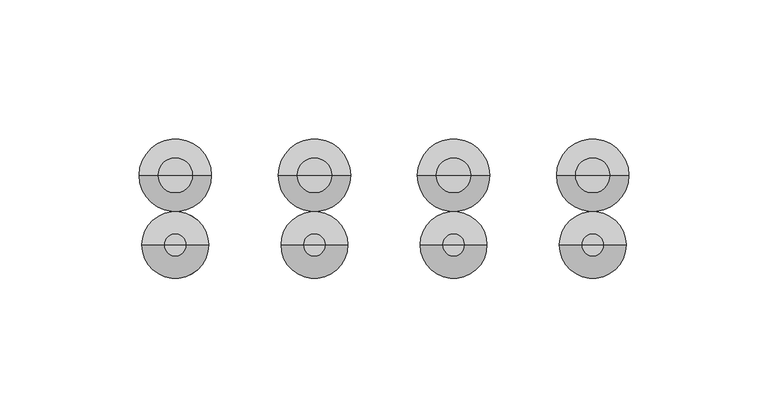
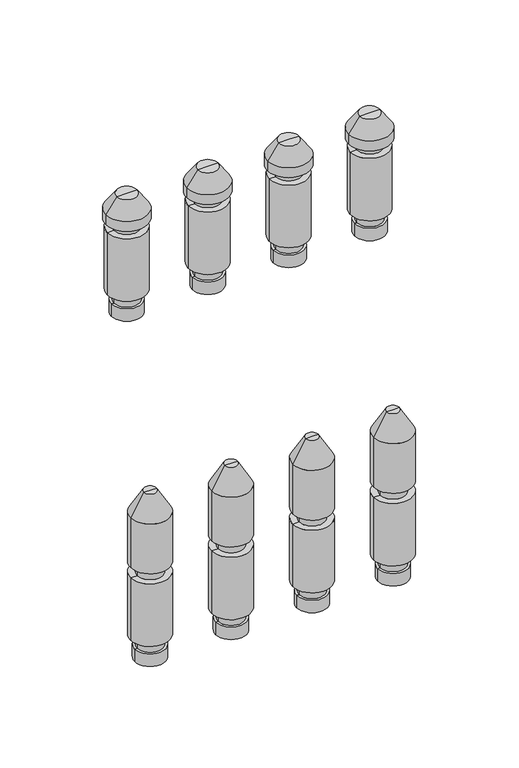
"""IFC4 building model written with IfcOpenShell, lengths in millimetres: valve geometry."""

from ifc_helpers import new_model, si_unit, frame, origin, place, context, project, spatial, polyline, circle_curve, source, transform, mapped, element, save
from ifc_brep_helpers import plane_surface, cylinder_surface, revolved_surface, advanced_brep


def valve_5755080d(model_context):
    return source(origin(), model_context, "Body", "AdvancedBrep", [
        advanced_brep(
        [(278.5, 0.0, -35.11267), (297.5, 0.0, -35.11267), (288.0, 0.0, -35.11267), (278.5, 0.0, -27.0369646), (297.5, 0.0, -27.0369646), (280.0, 0.0, -27.0369646), (296.0, 0.0, -27.0369646), (280.0, 0.0, -20.330253), (296.0, 0.0, -20.330253), (276.0, 0.0, -20.330253), (300.0, 0.0, -20.330253), (276.0, 0.0, 20.330253), (300.0, 0.0, 20.330253), (280.0, 0.0, 20.330253), (296.0, 0.0, 20.330253), (280.0, 0.0, 27.0474786), (296.0, 0.0, 27.0474786), (276.0, 0.0, 27.0474786), (300.0, 0.0, 27.0474786), (276.0, 0.0, 59.4084325), (300.0, 0.0, 59.4084325), (284.0, 0.0, 73.264839), (292.0, 0.0, 73.264839), (288.0, 0.0, 73.264839)],
        [
            (0, 1, circle_curve(frame((288.0, 0.0, -35.11267), z_axis=(0.0, 0.0, -1.0), x_axis=(1.0, 0.0, 0.0)), 9.5)),
            (1, 2),
            (2, 0),
            (1, 0, circle_curve(frame((288.0, 0.0, -35.11267), z_axis=(0.0, 0.0, -1.0), x_axis=(1.0, 0.0, 0.0)), 9.5)),
            (3, 4, circle_curve(frame((288.0, 0.0, -27.0369646), z_axis=(0.0, 0.0, -1.0), x_axis=(1.0, 0.0, 0.0)), 9.5)),
            (4, 1),
            (0, 3),
            (4, 3, circle_curve(frame((288.0, 0.0, -27.0369646), z_axis=(0.0, 0.0, -1.0), x_axis=(1.0, 0.0, 0.0)), 9.5)),
            (5, 6, circle_curve(frame((288.0, 0.0, -27.0369646), z_axis=(0.0, 0.0, -1.0), x_axis=(1.0, 0.0, 0.0)), 8.0)),
            (6, 4),
            (3, 5),
            (6, 5, circle_curve(frame((288.0, 0.0, -27.0369646), z_axis=(0.0, 0.0, -1.0), x_axis=(1.0, 0.0, 0.0)), 8.0)),
            (7, 8, circle_curve(frame((288.0, 0.0, -20.330253), z_axis=(0.0, 0.0, -1.0), x_axis=(1.0, 0.0, 0.0)), 8.0)),
            (8, 6),
            (5, 7),
            (8, 7, circle_curve(frame((288.0, 0.0, -20.330253), z_axis=(0.0, 0.0, -1.0), x_axis=(1.0, 0.0, 0.0)), 8.0)),
            (9, 10, circle_curve(frame((288.0, 0.0, -20.330253), z_axis=(0.0, 0.0, -1.0), x_axis=(1.0, 0.0, 0.0)), 12.0)),
            (10, 8),
            (7, 9),
            (10, 9, circle_curve(frame((288.0, 0.0, -20.330253), z_axis=(0.0, 0.0, -1.0), x_axis=(1.0, 0.0, 0.0)), 12.0)),
            (11, 12, circle_curve(frame((288.0, 0.0, 20.330253), z_axis=(0.0, 0.0, -1.0), x_axis=(1.0, 0.0, 0.0)), 12.0)),
            (12, 10),
            (9, 11),
            (12, 11, circle_curve(frame((288.0, 0.0, 20.330253), z_axis=(0.0, 0.0, -1.0), x_axis=(1.0, 0.0, 0.0)), 12.0)),
            (13, 14, circle_curve(frame((288.0, 0.0, 20.330253), z_axis=(0.0, 0.0, -1.0), x_axis=(1.0, 0.0, 0.0)), 8.0)),
            (14, 12),
            (11, 13),
            (14, 13, circle_curve(frame((288.0, 0.0, 20.330253), z_axis=(0.0, 0.0, -1.0), x_axis=(1.0, 0.0, 0.0)), 8.0)),
            (15, 16, circle_curve(frame((288.0, 0.0, 27.0474786), z_axis=(0.0, 0.0, -1.0), x_axis=(1.0, 0.0, 0.0)), 8.0)),
            (16, 14),
            (13, 15),
            (16, 15, circle_curve(frame((288.0, 0.0, 27.0474786), z_axis=(0.0, 0.0, -1.0), x_axis=(1.0, 0.0, 0.0)), 8.0)),
            (17, 18, circle_curve(frame((288.0, 0.0, 27.0474786), z_axis=(0.0, 0.0, -1.0), x_axis=(1.0, 0.0, 0.0)), 12.0)),
            (18, 16),
            (15, 17),
            (18, 17, circle_curve(frame((288.0, 0.0, 27.0474786), z_axis=(0.0, 0.0, -1.0), x_axis=(1.0, 0.0, 0.0)), 12.0)),
            (19, 20, circle_curve(frame((288.0, 0.0, 59.4084325), z_axis=(0.0, 0.0, -1.0), x_axis=(1.0, 0.0, 0.0)), 12.0)),
            (20, 18),
            (17, 19),
            (20, 19, circle_curve(frame((288.0, 0.0, 59.4084325), z_axis=(0.0, 0.0, -1.0), x_axis=(1.0, 0.0, 0.0)), 12.0)),
            (21, 22, circle_curve(frame((288.0, 0.0, 73.264839), z_axis=(0.0, 0.0, -1.0), x_axis=(1.0, 0.0, 0.0)), 4.0)),
            (22, 20),
            (19, 21),
            (22, 21, circle_curve(frame((288.0, 0.0, 73.264839), z_axis=(0.0, 0.0, -1.0), x_axis=(1.0, 0.0, 0.0)), 4.0)),
            (23, 22),
            (21, 23),
        ],
        [
            plane_surface(frame((288.0, 0.0, -35.11267), z_axis=(0.0, 0.0, -1.0), x_axis=(1.0, 0.0, 0.0))),
            cylinder_surface(frame((288.0, 0.0, 58.264839), z_axis=(0.0, 0.0, 1.0), x_axis=(1.0, 0.0, 0.0)), 9.5),
            plane_surface(frame((288.0, 0.0, -27.0369646), z_axis=(0.0, 0.0, 1.0), x_axis=(1.0, 0.0, 0.0))),
            cylinder_surface(frame((288.0, 0.0, 58.264839), z_axis=(0.0, 0.0, 1.0), x_axis=(1.0, 0.0, 0.0)), 8.0),
            plane_surface(frame((288.0, 0.0, -20.330253), z_axis=(0.0, 0.0, -1.0), x_axis=(1.0, 0.0, 0.0))),
            cylinder_surface(frame((288.0, 0.0, 58.264839), z_axis=(0.0, 0.0, 1.0), x_axis=(1.0, 0.0, 0.0)), 12.0),
            plane_surface(frame((288.0, 0.0, 20.330253), z_axis=(0.0, 0.0, 1.0), x_axis=(1.0, 0.0, 0.0))),
            plane_surface(frame((288.0, 0.0, 27.0474786), z_axis=(0.0, 0.0, -1.0), x_axis=(1.0, 0.0, 0.0))),
            revolved_surface(polyline([(300.0, 0.0, 59.4084325), (292.0, 0.0, 73.264839)]), (288.0, 0.0, 58.264839), (0.0, 0.0, 1.0)),
            plane_surface(frame((288.0, 0.0, 73.264839), z_axis=(0.0, 0.0, 1.0), x_axis=(1.0, 0.0, 0.0))),
        ],
        [
            (0, [[1, 2, 3]]),
            (0, [[4, -3, -2]]),
            (1, [[5, 6, -1, 7]]),
            (1, [[8, -7, -4, -6]]),
            (2, [[9, 10, -5, 11]]),
            (2, [[12, -11, -8, -10]]),
            (3, [[13, 14, -9, 15]]),
            (3, [[16, -15, -12, -14]]),
            (4, [[17, 18, -13, 19]]),
            (4, [[20, -19, -16, -18]]),
            (5, [[21, 22, -17, 23]]),
            (5, [[24, -23, -20, -22]]),
            (6, [[25, 26, -21, 27]]),
            (6, [[28, -27, -24, -26]]),
            (3, [[29, 30, -25, 31]]),
            (3, [[32, -31, -28, -30]]),
            (7, [[33, 34, -29, 35]]),
            (7, [[36, -35, -32, -34]]),
            (5, [[37, 38, -33, 39]]),
            (5, [[40, -39, -36, -38]]),
            (8, [[41, 42, -37, 43]]),
            (8, [[44, -43, -40, -42]]),
            (9, [[45, -41, 46]]),
            (9, [[-46, -44, -45]]),
        ],
    ),
        advanced_brep(
        [(228.5, 0.0, -35.11267), (247.5, 0.0, -35.11267), (238.0, 0.0, -35.11267), (228.5, 0.0, -27.0369646), (247.5, 0.0, -27.0369646), (230.0, 0.0, -27.0369646), (246.0, 0.0, -27.0369646), (230.0, 0.0, -20.330253), (246.0, 0.0, -20.330253), (226.0, 0.0, -20.330253), (250.0, 0.0, -20.330253), (226.0, 0.0, 20.330253), (250.0, 0.0, 20.330253), (230.0, 0.0, 20.330253), (246.0, 0.0, 20.330253), (230.0, 0.0, 27.0474786), (246.0, 0.0, 27.0474786), (226.0, 0.0, 27.0474786), (250.0, 0.0, 27.0474786), (226.0, 0.0, 59.4084325), (250.0, 0.0, 59.4084325), (234.0, 0.0, 73.264839), (242.0, 0.0, 73.264839), (238.0, 0.0, 73.264839)],
        [
            (0, 1, circle_curve(frame((238.0, 0.0, -35.11267), z_axis=(0.0, 0.0, -1.0), x_axis=(1.0, 0.0, 0.0)), 9.5)),
            (1, 2),
            (2, 0),
            (1, 0, circle_curve(frame((238.0, 0.0, -35.11267), z_axis=(0.0, 0.0, -1.0), x_axis=(1.0, 0.0, 0.0)), 9.5)),
            (3, 4, circle_curve(frame((238.0, 0.0, -27.0369646), z_axis=(0.0, 0.0, -1.0), x_axis=(1.0, 0.0, 0.0)), 9.5)),
            (4, 1),
            (0, 3),
            (4, 3, circle_curve(frame((238.0, 0.0, -27.0369646), z_axis=(0.0, 0.0, -1.0), x_axis=(1.0, 0.0, 0.0)), 9.5)),
            (5, 6, circle_curve(frame((238.0, 0.0, -27.0369646), z_axis=(0.0, 0.0, -1.0), x_axis=(1.0, 0.0, 0.0)), 8.0)),
            (6, 4),
            (3, 5),
            (6, 5, circle_curve(frame((238.0, 0.0, -27.0369646), z_axis=(0.0, 0.0, -1.0), x_axis=(1.0, 0.0, 0.0)), 8.0)),
            (7, 8, circle_curve(frame((238.0, 0.0, -20.330253), z_axis=(0.0, 0.0, -1.0), x_axis=(1.0, 0.0, 0.0)), 8.0)),
            (8, 6),
            (5, 7),
            (8, 7, circle_curve(frame((238.0, 0.0, -20.330253), z_axis=(0.0, 0.0, -1.0), x_axis=(1.0, 0.0, 0.0)), 8.0)),
            (9, 10, circle_curve(frame((238.0, 0.0, -20.330253), z_axis=(0.0, 0.0, -1.0), x_axis=(1.0, 0.0, 0.0)), 12.0)),
            (10, 8),
            (7, 9),
            (10, 9, circle_curve(frame((238.0, 0.0, -20.330253), z_axis=(0.0, 0.0, -1.0), x_axis=(1.0, 0.0, 0.0)), 12.0)),
            (11, 12, circle_curve(frame((238.0, 0.0, 20.330253), z_axis=(0.0, 0.0, -1.0), x_axis=(1.0, 0.0, 0.0)), 12.0)),
            (12, 10),
            (9, 11),
            (12, 11, circle_curve(frame((238.0, 0.0, 20.330253), z_axis=(0.0, 0.0, -1.0), x_axis=(1.0, 0.0, 0.0)), 12.0)),
            (13, 14, circle_curve(frame((238.0, 0.0, 20.330253), z_axis=(0.0, 0.0, -1.0), x_axis=(1.0, 0.0, 0.0)), 8.0)),
            (14, 12),
            (11, 13),
            (14, 13, circle_curve(frame((238.0, 0.0, 20.330253), z_axis=(0.0, 0.0, -1.0), x_axis=(1.0, 0.0, 0.0)), 8.0)),
            (15, 16, circle_curve(frame((238.0, 0.0, 27.0474786), z_axis=(0.0, 0.0, -1.0), x_axis=(1.0, 0.0, 0.0)), 8.0)),
            (16, 14),
            (13, 15),
            (16, 15, circle_curve(frame((238.0, 0.0, 27.0474786), z_axis=(0.0, 0.0, -1.0), x_axis=(1.0, 0.0, 0.0)), 8.0)),
            (17, 18, circle_curve(frame((238.0, 0.0, 27.0474786), z_axis=(0.0, 0.0, -1.0), x_axis=(1.0, 0.0, 0.0)), 12.0)),
            (18, 16),
            (15, 17),
            (18, 17, circle_curve(frame((238.0, 0.0, 27.0474786), z_axis=(0.0, 0.0, -1.0), x_axis=(1.0, 0.0, 0.0)), 12.0)),
            (19, 20, circle_curve(frame((238.0, 0.0, 59.4084325), z_axis=(0.0, 0.0, -1.0), x_axis=(1.0, 0.0, 0.0)), 12.0)),
            (20, 18),
            (17, 19),
            (20, 19, circle_curve(frame((238.0, 0.0, 59.4084325), z_axis=(0.0, 0.0, -1.0), x_axis=(1.0, 0.0, 0.0)), 12.0)),
            (21, 22, circle_curve(frame((238.0, 0.0, 73.264839), z_axis=(0.0, 0.0, -1.0), x_axis=(1.0, 0.0, 0.0)), 4.0)),
            (22, 20),
            (19, 21),
            (22, 21, circle_curve(frame((238.0, 0.0, 73.264839), z_axis=(0.0, 0.0, -1.0), x_axis=(1.0, 0.0, 0.0)), 4.0)),
            (23, 22),
            (21, 23),
        ],
        [
            plane_surface(frame((238.0, 0.0, -35.11267), z_axis=(0.0, 0.0, -1.0), x_axis=(1.0, 0.0, 0.0))),
            cylinder_surface(frame((238.0, 0.0, 58.264839), z_axis=(0.0, 0.0, 1.0), x_axis=(1.0, 0.0, 0.0)), 9.5),
            plane_surface(frame((238.0, 0.0, -27.0369646), z_axis=(0.0, 0.0, 1.0), x_axis=(1.0, 0.0, 0.0))),
            cylinder_surface(frame((238.0, 0.0, 58.264839), z_axis=(0.0, 0.0, 1.0), x_axis=(1.0, 0.0, 0.0)), 8.0),
            plane_surface(frame((238.0, 0.0, -20.330253), z_axis=(0.0, 0.0, -1.0), x_axis=(1.0, 0.0, 0.0))),
            cylinder_surface(frame((238.0, 0.0, 58.264839), z_axis=(0.0, 0.0, 1.0), x_axis=(1.0, 0.0, 0.0)), 12.0),
            plane_surface(frame((238.0, 0.0, 20.330253), z_axis=(0.0, 0.0, 1.0), x_axis=(1.0, 0.0, 0.0))),
            plane_surface(frame((238.0, 0.0, 27.0474786), z_axis=(0.0, 0.0, -1.0), x_axis=(1.0, 0.0, 0.0))),
            revolved_surface(polyline([(250.0, 0.0, 59.4084325), (242.0, 0.0, 73.264839)]), (238.0, 0.0, 58.264839), (0.0, 0.0, 1.0)),
            plane_surface(frame((238.0, 0.0, 73.264839), z_axis=(0.0, 0.0, 1.0), x_axis=(1.0, 0.0, 0.0))),
        ],
        [
            (0, [[1, 2, 3]]),
            (0, [[4, -3, -2]]),
            (1, [[5, 6, -1, 7]]),
            (1, [[8, -7, -4, -6]]),
            (2, [[9, 10, -5, 11]]),
            (2, [[12, -11, -8, -10]]),
            (3, [[13, 14, -9, 15]]),
            (3, [[16, -15, -12, -14]]),
            (4, [[17, 18, -13, 19]]),
            (4, [[20, -19, -16, -18]]),
            (5, [[21, 22, -17, 23]]),
            (5, [[24, -23, -20, -22]]),
            (6, [[25, 26, -21, 27]]),
            (6, [[28, -27, -24, -26]]),
            (3, [[29, 30, -25, 31]]),
            (3, [[32, -31, -28, -30]]),
            (7, [[33, 34, -29, 35]]),
            (7, [[36, -35, -32, -34]]),
            (5, [[37, 38, -33, 39]]),
            (5, [[40, -39, -36, -38]]),
            (8, [[41, 42, -37, 43]]),
            (8, [[44, -43, -40, -42]]),
            (9, [[45, -41, 46]]),
            (9, [[-46, -44, -45]]),
        ],
    ),
        advanced_brep(
        [(178.5, 0.0, -35.11267), (197.5, 0.0, -35.11267), (188.0, 0.0, -35.11267), (178.5, 0.0, -27.0369646), (197.5, 0.0, -27.0369646), (180.0, 0.0, -27.0369646), (196.0, 0.0, -27.0369646), (180.0, 0.0, -20.330253), (196.0, 0.0, -20.330253), (176.0, 0.0, -20.330253), (200.0, 0.0, -20.330253), (176.0, 0.0, 20.330253), (200.0, 0.0, 20.330253), (180.0, 0.0, 20.330253), (196.0, 0.0, 20.330253), (180.0, 0.0, 27.0474786), (196.0, 0.0, 27.0474786), (176.0, 0.0, 27.0474786), (200.0, 0.0, 27.0474786), (176.0, 0.0, 59.4084325), (200.0, 0.0, 59.4084325), (184.0, 0.0, 73.264839), (192.0, 0.0, 73.264839), (188.0, 0.0, 73.264839)],
        [
            (0, 1, circle_curve(frame((188.0, 0.0, -35.11267), z_axis=(0.0, 0.0, -1.0), x_axis=(1.0, 0.0, 0.0)), 9.5)),
            (1, 2),
            (2, 0),
            (1, 0, circle_curve(frame((188.0, 0.0, -35.11267), z_axis=(0.0, 0.0, -1.0), x_axis=(1.0, 0.0, 0.0)), 9.5)),
            (3, 4, circle_curve(frame((188.0, 0.0, -27.0369646), z_axis=(0.0, 0.0, -1.0), x_axis=(1.0, 0.0, 0.0)), 9.5)),
            (4, 1),
            (0, 3),
            (4, 3, circle_curve(frame((188.0, 0.0, -27.0369646), z_axis=(0.0, 0.0, -1.0), x_axis=(1.0, 0.0, 0.0)), 9.5)),
            (5, 6, circle_curve(frame((188.0, 0.0, -27.0369646), z_axis=(0.0, 0.0, -1.0), x_axis=(1.0, 0.0, 0.0)), 8.0)),
            (6, 4),
            (3, 5),
            (6, 5, circle_curve(frame((188.0, 0.0, -27.0369646), z_axis=(0.0, 0.0, -1.0), x_axis=(1.0, 0.0, 0.0)), 8.0)),
            (7, 8, circle_curve(frame((188.0, 0.0, -20.330253), z_axis=(0.0, 0.0, -1.0), x_axis=(1.0, 0.0, 0.0)), 8.0)),
            (8, 6),
            (5, 7),
            (8, 7, circle_curve(frame((188.0, 0.0, -20.330253), z_axis=(0.0, 0.0, -1.0), x_axis=(1.0, 0.0, 0.0)), 8.0)),
            (9, 10, circle_curve(frame((188.0, 0.0, -20.330253), z_axis=(0.0, 0.0, -1.0), x_axis=(1.0, 0.0, 0.0)), 12.0)),
            (10, 8),
            (7, 9),
            (10, 9, circle_curve(frame((188.0, 0.0, -20.330253), z_axis=(0.0, 0.0, -1.0), x_axis=(1.0, 0.0, 0.0)), 12.0)),
            (11, 12, circle_curve(frame((188.0, 0.0, 20.330253), z_axis=(0.0, 0.0, -1.0), x_axis=(1.0, 0.0, 0.0)), 12.0)),
            (12, 10),
            (9, 11),
            (12, 11, circle_curve(frame((188.0, 0.0, 20.330253), z_axis=(0.0, 0.0, -1.0), x_axis=(1.0, 0.0, 0.0)), 12.0)),
            (13, 14, circle_curve(frame((188.0, 0.0, 20.330253), z_axis=(0.0, 0.0, -1.0), x_axis=(1.0, 0.0, 0.0)), 8.0)),
            (14, 12),
            (11, 13),
            (14, 13, circle_curve(frame((188.0, 0.0, 20.330253), z_axis=(0.0, 0.0, -1.0), x_axis=(1.0, 0.0, 0.0)), 8.0)),
            (15, 16, circle_curve(frame((188.0, 0.0, 27.0474786), z_axis=(0.0, 0.0, -1.0), x_axis=(1.0, 0.0, 0.0)), 8.0)),
            (16, 14),
            (13, 15),
            (16, 15, circle_curve(frame((188.0, 0.0, 27.0474786), z_axis=(0.0, 0.0, -1.0), x_axis=(1.0, 0.0, 0.0)), 8.0)),
            (17, 18, circle_curve(frame((188.0, 0.0, 27.0474786), z_axis=(0.0, 0.0, -1.0), x_axis=(1.0, 0.0, 0.0)), 12.0)),
            (18, 16),
            (15, 17),
            (18, 17, circle_curve(frame((188.0, 0.0, 27.0474786), z_axis=(0.0, 0.0, -1.0), x_axis=(1.0, 0.0, 0.0)), 12.0)),
            (19, 20, circle_curve(frame((188.0, 0.0, 59.4084325), z_axis=(0.0, 0.0, -1.0), x_axis=(1.0, 0.0, 0.0)), 12.0)),
            (20, 18),
            (17, 19),
            (20, 19, circle_curve(frame((188.0, 0.0, 59.4084325), z_axis=(0.0, 0.0, -1.0), x_axis=(1.0, 0.0, 0.0)), 12.0)),
            (21, 22, circle_curve(frame((188.0, 0.0, 73.264839), z_axis=(0.0, 0.0, -1.0), x_axis=(1.0, 0.0, 0.0)), 4.0)),
            (22, 20),
            (19, 21),
            (22, 21, circle_curve(frame((188.0, 0.0, 73.264839), z_axis=(0.0, 0.0, -1.0), x_axis=(1.0, 0.0, 0.0)), 4.0)),
            (23, 22),
            (21, 23),
        ],
        [
            plane_surface(frame((188.0, 0.0, -35.11267), z_axis=(0.0, 0.0, -1.0), x_axis=(1.0, 0.0, 0.0))),
            cylinder_surface(frame((188.0, 0.0, 58.264839), z_axis=(0.0, 0.0, 1.0), x_axis=(1.0, 0.0, 0.0)), 9.5),
            plane_surface(frame((188.0, 0.0, -27.0369646), z_axis=(0.0, 0.0, 1.0), x_axis=(1.0, 0.0, 0.0))),
            cylinder_surface(frame((188.0, 0.0, 58.264839), z_axis=(0.0, 0.0, 1.0), x_axis=(1.0, 0.0, 0.0)), 8.0),
            plane_surface(frame((188.0, 0.0, -20.330253), z_axis=(0.0, 0.0, -1.0), x_axis=(1.0, 0.0, 0.0))),
            cylinder_surface(frame((188.0, 0.0, 58.264839), z_axis=(0.0, 0.0, 1.0), x_axis=(1.0, 0.0, 0.0)), 12.0),
            plane_surface(frame((188.0, 0.0, 20.330253), z_axis=(0.0, 0.0, 1.0), x_axis=(1.0, 0.0, 0.0))),
            plane_surface(frame((188.0, 0.0, 27.0474786), z_axis=(0.0, 0.0, -1.0), x_axis=(1.0, 0.0, 0.0))),
            revolved_surface(polyline([(200.0, 0.0, 59.4084325), (192.0, 0.0, 73.264839)]), (188.0, 0.0, 58.264839), (0.0, 0.0, 1.0)),
            plane_surface(frame((188.0, 0.0, 73.264839), z_axis=(0.0, 0.0, 1.0), x_axis=(1.0, 0.0, 0.0))),
        ],
        [
            (0, [[1, 2, 3]]),
            (0, [[4, -3, -2]]),
            (1, [[5, 6, -1, 7]]),
            (1, [[8, -7, -4, -6]]),
            (2, [[9, 10, -5, 11]]),
            (2, [[12, -11, -8, -10]]),
            (3, [[13, 14, -9, 15]]),
            (3, [[16, -15, -12, -14]]),
            (4, [[17, 18, -13, 19]]),
            (4, [[20, -19, -16, -18]]),
            (5, [[21, 22, -17, 23]]),
            (5, [[24, -23, -20, -22]]),
            (6, [[25, 26, -21, 27]]),
            (6, [[28, -27, -24, -26]]),
            (3, [[29, 30, -25, 31]]),
            (3, [[32, -31, -28, -30]]),
            (7, [[33, 34, -29, 35]]),
            (7, [[36, -35, -32, -34]]),
            (5, [[37, 38, -33, 39]]),
            (5, [[40, -39, -36, -38]]),
            (8, [[41, 42, -37, 43]]),
            (8, [[44, -43, -40, -42]]),
            (9, [[45, -41, 46]]),
            (9, [[-46, -44, -45]]),
        ],
    ),
        advanced_brep(
        [(128.5, 0.0, -35.11267), (147.5, 0.0, -35.11267), (138.0, 0.0, -35.11267), (128.5, 0.0, -27.0369646), (147.5, 0.0, -27.0369646), (130.0, 0.0, -27.0369646), (146.0, 0.0, -27.0369646), (130.0, 0.0, -20.330253), (146.0, 0.0, -20.330253), (126.0, 0.0, -20.330253), (150.0, 0.0, -20.330253), (126.0, 0.0, 20.330253), (150.0, 0.0, 20.330253), (130.0, 0.0, 20.330253), (146.0, 0.0, 20.330253), (130.0, 0.0, 27.0474786), (146.0, 0.0, 27.0474786), (126.0, 0.0, 27.0474786), (150.0, 0.0, 27.0474786), (126.0, 0.0, 59.4084325), (150.0, 0.0, 59.4084325), (134.0, 0.0, 73.264839), (142.0, 0.0, 73.264839), (138.0, 0.0, 73.264839)],
        [
            (0, 1, circle_curve(frame((138.0, 0.0, -35.11267), z_axis=(0.0, 0.0, -1.0), x_axis=(1.0, 0.0, 0.0)), 9.5)),
            (1, 2),
            (2, 0),
            (1, 0, circle_curve(frame((138.0, 0.0, -35.11267), z_axis=(0.0, 0.0, -1.0), x_axis=(1.0, 0.0, 0.0)), 9.5)),
            (3, 4, circle_curve(frame((138.0, 0.0, -27.0369646), z_axis=(0.0, 0.0, -1.0), x_axis=(1.0, 0.0, 0.0)), 9.5)),
            (4, 1),
            (0, 3),
            (4, 3, circle_curve(frame((138.0, 0.0, -27.0369646), z_axis=(0.0, 0.0, -1.0), x_axis=(1.0, 0.0, 0.0)), 9.5)),
            (5, 6, circle_curve(frame((138.0, 0.0, -27.0369646), z_axis=(0.0, 0.0, -1.0), x_axis=(1.0, 0.0, 0.0)), 8.0)),
            (6, 4),
            (3, 5),
            (6, 5, circle_curve(frame((138.0, 0.0, -27.0369646), z_axis=(0.0, 0.0, -1.0), x_axis=(1.0, 0.0, 0.0)), 8.0)),
            (7, 8, circle_curve(frame((138.0, 0.0, -20.330253), z_axis=(0.0, 0.0, -1.0), x_axis=(1.0, 0.0, 0.0)), 8.0)),
            (8, 6),
            (5, 7),
            (8, 7, circle_curve(frame((138.0, 0.0, -20.330253), z_axis=(0.0, 0.0, -1.0), x_axis=(1.0, 0.0, 0.0)), 8.0)),
            (9, 10, circle_curve(frame((138.0, 0.0, -20.330253), z_axis=(0.0, 0.0, -1.0), x_axis=(1.0, 0.0, 0.0)), 12.0)),
            (10, 8),
            (7, 9),
            (10, 9, circle_curve(frame((138.0, 0.0, -20.330253), z_axis=(0.0, 0.0, -1.0), x_axis=(1.0, 0.0, 0.0)), 12.0)),
            (11, 12, circle_curve(frame((138.0, 0.0, 20.330253), z_axis=(0.0, 0.0, -1.0), x_axis=(1.0, 0.0, 0.0)), 12.0)),
            (12, 10),
            (9, 11),
            (12, 11, circle_curve(frame((138.0, 0.0, 20.330253), z_axis=(0.0, 0.0, -1.0), x_axis=(1.0, 0.0, 0.0)), 12.0)),
            (13, 14, circle_curve(frame((138.0, 0.0, 20.330253), z_axis=(0.0, 0.0, -1.0), x_axis=(1.0, 0.0, 0.0)), 8.0)),
            (14, 12),
            (11, 13),
            (14, 13, circle_curve(frame((138.0, 0.0, 20.330253), z_axis=(0.0, 0.0, -1.0), x_axis=(1.0, 0.0, 0.0)), 8.0)),
            (15, 16, circle_curve(frame((138.0, 0.0, 27.0474786), z_axis=(0.0, 0.0, -1.0), x_axis=(1.0, 0.0, 0.0)), 8.0)),
            (16, 14),
            (13, 15),
            (16, 15, circle_curve(frame((138.0, 0.0, 27.0474786), z_axis=(0.0, 0.0, -1.0), x_axis=(1.0, 0.0, 0.0)), 8.0)),
            (17, 18, circle_curve(frame((138.0, 0.0, 27.0474786), z_axis=(0.0, 0.0, -1.0), x_axis=(1.0, 0.0, 0.0)), 12.0)),
            (18, 16),
            (15, 17),
            (18, 17, circle_curve(frame((138.0, 0.0, 27.0474786), z_axis=(0.0, 0.0, -1.0), x_axis=(1.0, 0.0, 0.0)), 12.0)),
            (19, 20, circle_curve(frame((138.0, 0.0, 59.4084325), z_axis=(0.0, 0.0, -1.0), x_axis=(1.0, 0.0, 0.0)), 12.0)),
            (20, 18),
            (17, 19),
            (20, 19, circle_curve(frame((138.0, 0.0, 59.4084325), z_axis=(0.0, 0.0, -1.0), x_axis=(1.0, 0.0, 0.0)), 12.0)),
            (21, 22, circle_curve(frame((138.0, 0.0, 73.264839), z_axis=(0.0, 0.0, -1.0), x_axis=(1.0, 0.0, 0.0)), 4.0)),
            (22, 20),
            (19, 21),
            (22, 21, circle_curve(frame((138.0, 0.0, 73.264839), z_axis=(0.0, 0.0, -1.0), x_axis=(1.0, 0.0, 0.0)), 4.0)),
            (23, 22),
            (21, 23),
        ],
        [
            plane_surface(frame((138.0, 0.0, -35.11267), z_axis=(0.0, 0.0, -1.0), x_axis=(1.0, 0.0, 0.0))),
            cylinder_surface(frame((138.0, 0.0, 58.264839), z_axis=(0.0, 0.0, 1.0), x_axis=(1.0, 0.0, 0.0)), 9.5),
            plane_surface(frame((138.0, 0.0, -27.0369646), z_axis=(0.0, 0.0, 1.0), x_axis=(1.0, 0.0, 0.0))),
            cylinder_surface(frame((138.0, 0.0, 58.264839), z_axis=(0.0, 0.0, 1.0), x_axis=(1.0, 0.0, 0.0)), 8.0),
            plane_surface(frame((138.0, 0.0, -20.330253), z_axis=(0.0, 0.0, -1.0), x_axis=(1.0, 0.0, 0.0))),
            cylinder_surface(frame((138.0, 0.0, 58.264839), z_axis=(0.0, 0.0, 1.0), x_axis=(1.0, 0.0, 0.0)), 12.0),
            plane_surface(frame((138.0, 0.0, 20.330253), z_axis=(0.0, 0.0, 1.0), x_axis=(1.0, 0.0, 0.0))),
            plane_surface(frame((138.0, 0.0, 27.0474786), z_axis=(0.0, 0.0, -1.0), x_axis=(1.0, 0.0, 0.0))),
            revolved_surface(polyline([(150.0, 0.0, 59.4084325), (142.0, 0.0, 73.264839)]), (138.0, 0.0, 58.264839), (0.0, 0.0, 1.0)),
            plane_surface(frame((138.0, 0.0, 73.264839), z_axis=(0.0, 0.0, 1.0), x_axis=(1.0, 0.0, 0.0))),
        ],
        [
            (0, [[1, 2, 3]]),
            (0, [[4, -3, -2]]),
            (1, [[5, 6, -1, 7]]),
            (1, [[8, -7, -4, -6]]),
            (2, [[9, 10, -5, 11]]),
            (2, [[12, -11, -8, -10]]),
            (3, [[13, 14, -9, 15]]),
            (3, [[16, -15, -12, -14]]),
            (4, [[17, 18, -13, 19]]),
            (4, [[20, -19, -16, -18]]),
            (5, [[21, 22, -17, 23]]),
            (5, [[24, -23, -20, -22]]),
            (6, [[25, 26, -21, 27]]),
            (6, [[28, -27, -24, -26]]),
            (3, [[29, 30, -25, 31]]),
            (3, [[32, -31, -28, -30]]),
            (7, [[33, 34, -29, 35]]),
            (7, [[36, -35, -32, -34]]),
            (5, [[37, 38, -33, 39]]),
            (5, [[40, -39, -36, -38]]),
            (8, [[41, 42, -37, 43]]),
            (8, [[44, -43, -40, -42]]),
            (9, [[45, -41, 46]]),
            (9, [[-46, -44, -45]]),
        ],
    ),
        advanced_brep(
        [(278.5, 25.0, 174.88733), (297.5, 25.0, 174.88733), (288.0, 25.0, 174.88733), (278.5, 25.0, 182.9630354), (297.5, 25.0, 182.9630354), (280.0, 25.0, 182.9630354), (296.0, 25.0, 182.9630354), (280.0, 25.0, 189.669747), (296.0, 25.0, 189.669747), (276.0, 25.0, 189.669747), (300.0, 25.0, 189.669747), (276.0, 25.0, 230.330253), (300.0, 25.0, 230.330253), (280.0, 25.0, 230.330253), (296.0, 25.0, 230.330253), (280.0, 25.0, 236.0474786), (296.0, 25.0, 236.0474786), (275.0, 25.0, 236.0474786), (301.0, 25.0, 236.0474786), (275.0, 25.0, 242.337955), (301.0, 25.0, 242.337955), (281.6551779, 25.0, 251.842534), (294.3448221, 25.0, 251.842534), (288.0, 25.0, 251.842534)],
        [
            (0, 1, circle_curve(frame((288.0, 25.0, 174.88733), z_axis=(0.0, 0.0, -1.0), x_axis=(1.0, 0.0, 0.0)), 9.5)),
            (1, 2),
            (2, 0),
            (1, 0, circle_curve(frame((288.0, 25.0, 174.88733), z_axis=(0.0, 0.0, -1.0), x_axis=(1.0, 0.0, 0.0)), 9.5)),
            (3, 4, circle_curve(frame((288.0, 25.0, 182.9630354), z_axis=(0.0, 0.0, -1.0), x_axis=(1.0, 0.0, 0.0)), 9.5)),
            (4, 1),
            (0, 3),
            (4, 3, circle_curve(frame((288.0, 25.0, 182.9630354), z_axis=(0.0, 0.0, -1.0), x_axis=(1.0, 0.0, 0.0)), 9.5)),
            (5, 6, circle_curve(frame((288.0, 25.0, 182.9630354), z_axis=(0.0, 0.0, -1.0), x_axis=(1.0, 0.0, 0.0)), 8.0)),
            (6, 4),
            (3, 5),
            (6, 5, circle_curve(frame((288.0, 25.0, 182.9630354), z_axis=(0.0, 0.0, -1.0), x_axis=(1.0, 0.0, 0.0)), 8.0)),
            (7, 8, circle_curve(frame((288.0, 25.0, 189.669747), z_axis=(0.0, 0.0, -1.0), x_axis=(1.0, 0.0, 0.0)), 8.0)),
            (8, 6),
            (5, 7),
            (8, 7, circle_curve(frame((288.0, 25.0, 189.669747), z_axis=(0.0, 0.0, -1.0), x_axis=(1.0, 0.0, 0.0)), 8.0)),
            (9, 10, circle_curve(frame((288.0, 25.0, 189.669747), z_axis=(0.0, 0.0, -1.0), x_axis=(1.0, 0.0, 0.0)), 12.0)),
            (10, 8),
            (7, 9),
            (10, 9, circle_curve(frame((288.0, 25.0, 189.669747), z_axis=(0.0, 0.0, -1.0), x_axis=(1.0, 0.0, 0.0)), 12.0)),
            (11, 12, circle_curve(frame((288.0, 25.0, 230.330253), z_axis=(0.0, 0.0, -1.0), x_axis=(1.0, 0.0, 0.0)), 12.0)),
            (12, 10),
            (9, 11),
            (12, 11, circle_curve(frame((288.0, 25.0, 230.330253), z_axis=(0.0, 0.0, -1.0), x_axis=(1.0, 0.0, 0.0)), 12.0)),
            (13, 14, circle_curve(frame((288.0, 25.0, 230.330253), z_axis=(0.0, 0.0, -1.0), x_axis=(1.0, 0.0, 0.0)), 8.0)),
            (14, 12),
            (11, 13),
            (14, 13, circle_curve(frame((288.0, 25.0, 230.330253), z_axis=(0.0, 0.0, -1.0), x_axis=(1.0, 0.0, 0.0)), 8.0)),
            (15, 16, circle_curve(frame((288.0, 25.0, 236.0474786), z_axis=(0.0, 0.0, -1.0), x_axis=(1.0, 0.0, 0.0)), 8.0)),
            (16, 14),
            (13, 15),
            (16, 15, circle_curve(frame((288.0, 25.0, 236.0474786), z_axis=(0.0, 0.0, -1.0), x_axis=(1.0, 0.0, 0.0)), 8.0)),
            (17, 18, circle_curve(frame((288.0, 25.0, 236.0474786), z_axis=(0.0, 0.0, -1.0), x_axis=(1.0, 0.0, 0.0)), 13.0)),
            (18, 16),
            (15, 17),
            (18, 17, circle_curve(frame((288.0, 25.0, 236.0474786), z_axis=(0.0, 0.0, -1.0), x_axis=(1.0, 0.0, 0.0)), 13.0)),
            (19, 20, circle_curve(frame((288.0, 25.0, 242.337955), z_axis=(0.0, 0.0, -1.0), x_axis=(1.0, 0.0, 0.0)), 13.0)),
            (20, 18),
            (17, 19),
            (20, 19, circle_curve(frame((288.0, 25.0, 242.337955), z_axis=(0.0, 0.0, -1.0), x_axis=(1.0, 0.0, 0.0)), 13.0)),
            (21, 22, circle_curve(frame((288.0, 25.0, 251.842534), z_axis=(0.0, 0.0, -1.0), x_axis=(1.0, 0.0, 0.0)), 6.3448221)),
            (22, 20),
            (19, 21),
            (22, 21, circle_curve(frame((288.0, 25.0, 251.842534), z_axis=(0.0, 0.0, -1.0), x_axis=(1.0, 0.0, 0.0)), 6.3448221)),
            (23, 22),
            (21, 23),
        ],
        [
            plane_surface(frame((288.0, 25.0, 174.88733), z_axis=(0.0, 0.0, -1.0), x_axis=(1.0, 0.0, 0.0))),
            cylinder_surface(frame((288.0, 25.0, 247.7026565), z_axis=(0.0, 0.0, 1.0), x_axis=(1.0, 0.0, 0.0)), 9.5),
            plane_surface(frame((288.0, 25.0, 182.9630354), z_axis=(0.0, 0.0, 1.0), x_axis=(1.0, 0.0, 0.0))),
            cylinder_surface(frame((288.0, 25.0, 247.7026565), z_axis=(0.0, 0.0, 1.0), x_axis=(1.0, 0.0, 0.0)), 8.0),
            plane_surface(frame((288.0, 25.0, 189.669747), z_axis=(0.0, 0.0, -1.0), x_axis=(1.0, 0.0, 0.0))),
            cylinder_surface(frame((288.0, 25.0, 247.7026565), z_axis=(0.0, 0.0, 1.0), x_axis=(1.0, 0.0, 0.0)), 12.0),
            plane_surface(frame((288.0, 25.0, 230.330253), z_axis=(0.0, 0.0, 1.0), x_axis=(1.0, 0.0, 0.0))),
            plane_surface(frame((288.0, 25.0, 236.0474786), z_axis=(0.0, 0.0, -1.0), x_axis=(1.0, 0.0, 0.0))),
            cylinder_surface(frame((288.0, 25.0, 247.7026565), z_axis=(0.0, 0.0, 1.0), x_axis=(1.0, 0.0, 0.0)), 13.0),
            revolved_surface(polyline([(301.0, 25.0, 242.337955), (294.3448221, 25.0, 251.842534)]), (288.0, 25.0, 247.7026565), (0.0, 0.0, 1.0)),
            plane_surface(frame((288.0, 25.0, 251.842534), z_axis=(0.0, 0.0, 1.0), x_axis=(1.0, 0.0, 0.0))),
        ],
        [
            (0, [[1, 2, 3]]),
            (0, [[4, -3, -2]]),
            (1, [[5, 6, -1, 7]]),
            (1, [[8, -7, -4, -6]]),
            (2, [[9, 10, -5, 11]]),
            (2, [[12, -11, -8, -10]]),
            (3, [[13, 14, -9, 15]]),
            (3, [[16, -15, -12, -14]]),
            (4, [[17, 18, -13, 19]]),
            (4, [[20, -19, -16, -18]]),
            (5, [[21, 22, -17, 23]]),
            (5, [[24, -23, -20, -22]]),
            (6, [[25, 26, -21, 27]]),
            (6, [[28, -27, -24, -26]]),
            (3, [[29, 30, -25, 31]]),
            (3, [[32, -31, -28, -30]]),
            (7, [[33, 34, -29, 35]]),
            (7, [[36, -35, -32, -34]]),
            (8, [[37, 38, -33, 39]]),
            (8, [[40, -39, -36, -38]]),
            (9, [[41, 42, -37, 43]]),
            (9, [[44, -43, -40, -42]]),
            (10, [[45, -41, 46]]),
            (10, [[-46, -44, -45]]),
        ],
    ),
        advanced_brep(
        [(228.5, 25.0, 174.88733), (247.5, 25.0, 174.88733), (238.0, 25.0, 174.88733), (228.5, 25.0, 182.9630354), (247.5, 25.0, 182.9630354), (230.0, 25.0, 182.9630354), (246.0, 25.0, 182.9630354), (230.0, 25.0, 189.669747), (246.0, 25.0, 189.669747), (226.0, 25.0, 189.669747), (250.0, 25.0, 189.669747), (226.0, 25.0, 230.330253), (250.0, 25.0, 230.330253), (230.0, 25.0, 230.330253), (246.0, 25.0, 230.330253), (230.0, 25.0, 236.0474786), (246.0, 25.0, 236.0474786), (225.0, 25.0, 236.0474786), (251.0, 25.0, 236.0474786), (225.0, 25.0, 242.337955), (251.0, 25.0, 242.337955), (231.6551779, 25.0, 251.842534), (244.3448221, 25.0, 251.842534), (238.0, 25.0, 251.842534)],
        [
            (0, 1, circle_curve(frame((238.0, 25.0, 174.88733), z_axis=(0.0, 0.0, -1.0), x_axis=(1.0, 0.0, 0.0)), 9.5)),
            (1, 2),
            (2, 0),
            (1, 0, circle_curve(frame((238.0, 25.0, 174.88733), z_axis=(0.0, 0.0, -1.0), x_axis=(1.0, 0.0, 0.0)), 9.5)),
            (3, 4, circle_curve(frame((238.0, 25.0, 182.9630354), z_axis=(0.0, 0.0, -1.0), x_axis=(1.0, 0.0, 0.0)), 9.5)),
            (4, 1),
            (0, 3),
            (4, 3, circle_curve(frame((238.0, 25.0, 182.9630354), z_axis=(0.0, 0.0, -1.0), x_axis=(1.0, 0.0, 0.0)), 9.5)),
            (5, 6, circle_curve(frame((238.0, 25.0, 182.9630354), z_axis=(0.0, 0.0, -1.0), x_axis=(1.0, 0.0, 0.0)), 8.0)),
            (6, 4),
            (3, 5),
            (6, 5, circle_curve(frame((238.0, 25.0, 182.9630354), z_axis=(0.0, 0.0, -1.0), x_axis=(1.0, 0.0, 0.0)), 8.0)),
            (7, 8, circle_curve(frame((238.0, 25.0, 189.669747), z_axis=(0.0, 0.0, -1.0), x_axis=(1.0, 0.0, 0.0)), 8.0)),
            (8, 6),
            (5, 7),
            (8, 7, circle_curve(frame((238.0, 25.0, 189.669747), z_axis=(0.0, 0.0, -1.0), x_axis=(1.0, 0.0, 0.0)), 8.0)),
            (9, 10, circle_curve(frame((238.0, 25.0, 189.669747), z_axis=(0.0, 0.0, -1.0), x_axis=(1.0, 0.0, 0.0)), 12.0)),
            (10, 8),
            (7, 9),
            (10, 9, circle_curve(frame((238.0, 25.0, 189.669747), z_axis=(0.0, 0.0, -1.0), x_axis=(1.0, 0.0, 0.0)), 12.0)),
            (11, 12, circle_curve(frame((238.0, 25.0, 230.330253), z_axis=(0.0, 0.0, -1.0), x_axis=(1.0, 0.0, 0.0)), 12.0)),
            (12, 10),
            (9, 11),
            (12, 11, circle_curve(frame((238.0, 25.0, 230.330253), z_axis=(0.0, 0.0, -1.0), x_axis=(1.0, 0.0, 0.0)), 12.0)),
            (13, 14, circle_curve(frame((238.0, 25.0, 230.330253), z_axis=(0.0, 0.0, -1.0), x_axis=(1.0, 0.0, 0.0)), 8.0)),
            (14, 12),
            (11, 13),
            (14, 13, circle_curve(frame((238.0, 25.0, 230.330253), z_axis=(0.0, 0.0, -1.0), x_axis=(1.0, 0.0, 0.0)), 8.0)),
            (15, 16, circle_curve(frame((238.0, 25.0, 236.0474786), z_axis=(0.0, 0.0, -1.0), x_axis=(1.0, 0.0, 0.0)), 8.0)),
            (16, 14),
            (13, 15),
            (16, 15, circle_curve(frame((238.0, 25.0, 236.0474786), z_axis=(0.0, 0.0, -1.0), x_axis=(1.0, 0.0, 0.0)), 8.0)),
            (17, 18, circle_curve(frame((238.0, 25.0, 236.0474786), z_axis=(0.0, 0.0, -1.0), x_axis=(1.0, 0.0, 0.0)), 13.0)),
            (18, 16),
            (15, 17),
            (18, 17, circle_curve(frame((238.0, 25.0, 236.0474786), z_axis=(0.0, 0.0, -1.0), x_axis=(1.0, 0.0, 0.0)), 13.0)),
            (19, 20, circle_curve(frame((238.0, 25.0, 242.337955), z_axis=(0.0, 0.0, -1.0), x_axis=(1.0, 0.0, 0.0)), 13.0)),
            (20, 18),
            (17, 19),
            (20, 19, circle_curve(frame((238.0, 25.0, 242.337955), z_axis=(0.0, 0.0, -1.0), x_axis=(1.0, 0.0, 0.0)), 13.0)),
            (21, 22, circle_curve(frame((238.0, 25.0, 251.842534), z_axis=(0.0, 0.0, -1.0), x_axis=(1.0, 0.0, 0.0)), 6.3448221)),
            (22, 20),
            (19, 21),
            (22, 21, circle_curve(frame((238.0, 25.0, 251.842534), z_axis=(0.0, 0.0, -1.0), x_axis=(1.0, 0.0, 0.0)), 6.3448221)),
            (23, 22),
            (21, 23),
        ],
        [
            plane_surface(frame((238.0, 25.0, 174.88733), z_axis=(0.0, 0.0, -1.0), x_axis=(1.0, 0.0, 0.0))),
            cylinder_surface(frame((238.0, 25.0, 247.7026565), z_axis=(0.0, 0.0, 1.0), x_axis=(1.0, 0.0, 0.0)), 9.5),
            plane_surface(frame((238.0, 25.0, 182.9630354), z_axis=(0.0, 0.0, 1.0), x_axis=(1.0, 0.0, 0.0))),
            cylinder_surface(frame((238.0, 25.0, 247.7026565), z_axis=(0.0, 0.0, 1.0), x_axis=(1.0, 0.0, 0.0)), 8.0),
            plane_surface(frame((238.0, 25.0, 189.669747), z_axis=(0.0, 0.0, -1.0), x_axis=(1.0, 0.0, 0.0))),
            cylinder_surface(frame((238.0, 25.0, 247.7026565), z_axis=(0.0, 0.0, 1.0), x_axis=(1.0, 0.0, 0.0)), 12.0),
            plane_surface(frame((238.0, 25.0, 230.330253), z_axis=(0.0, 0.0, 1.0), x_axis=(1.0, 0.0, 0.0))),
            plane_surface(frame((238.0, 25.0, 236.0474786), z_axis=(0.0, 0.0, -1.0), x_axis=(1.0, 0.0, 0.0))),
            cylinder_surface(frame((238.0, 25.0, 247.7026565), z_axis=(0.0, 0.0, 1.0), x_axis=(1.0, 0.0, 0.0)), 13.0),
            revolved_surface(polyline([(251.0, 25.0, 242.337955), (244.3448221, 25.0, 251.842534)]), (238.0, 25.0, 247.7026565), (0.0, 0.0, 1.0)),
            plane_surface(frame((238.0, 25.0, 251.842534), z_axis=(0.0, 0.0, 1.0), x_axis=(1.0, 0.0, 0.0))),
        ],
        [
            (0, [[1, 2, 3]]),
            (0, [[4, -3, -2]]),
            (1, [[5, 6, -1, 7]]),
            (1, [[8, -7, -4, -6]]),
            (2, [[9, 10, -5, 11]]),
            (2, [[12, -11, -8, -10]]),
            (3, [[13, 14, -9, 15]]),
            (3, [[16, -15, -12, -14]]),
            (4, [[17, 18, -13, 19]]),
            (4, [[20, -19, -16, -18]]),
            (5, [[21, 22, -17, 23]]),
            (5, [[24, -23, -20, -22]]),
            (6, [[25, 26, -21, 27]]),
            (6, [[28, -27, -24, -26]]),
            (3, [[29, 30, -25, 31]]),
            (3, [[32, -31, -28, -30]]),
            (7, [[33, 34, -29, 35]]),
            (7, [[36, -35, -32, -34]]),
            (8, [[37, 38, -33, 39]]),
            (8, [[40, -39, -36, -38]]),
            (9, [[41, 42, -37, 43]]),
            (9, [[44, -43, -40, -42]]),
            (10, [[45, -41, 46]]),
            (10, [[-46, -44, -45]]),
        ],
    ),
        advanced_brep(
        [(178.5, 25.0, 174.88733), (197.5, 25.0, 174.88733), (188.0, 25.0, 174.88733), (178.5, 25.0, 182.9630354), (197.5, 25.0, 182.9630354), (180.0, 25.0, 182.9630354), (196.0, 25.0, 182.9630354), (180.0, 25.0, 189.669747), (196.0, 25.0, 189.669747), (176.0, 25.0, 189.669747), (200.0, 25.0, 189.669747), (176.0, 25.0, 230.330253), (200.0, 25.0, 230.330253), (180.0, 25.0, 230.330253), (196.0, 25.0, 230.330253), (180.0, 25.0, 236.0474786), (196.0, 25.0, 236.0474786), (175.0, 25.0, 236.0474786), (201.0, 25.0, 236.0474786), (175.0, 25.0, 242.337955), (201.0, 25.0, 242.337955), (181.6551779, 25.0, 251.842534), (194.3448221, 25.0, 251.842534), (188.0, 25.0, 251.842534)],
        [
            (0, 1, circle_curve(frame((188.0, 25.0, 174.88733), z_axis=(0.0, 0.0, -1.0), x_axis=(1.0, 0.0, 0.0)), 9.5)),
            (1, 2),
            (2, 0),
            (1, 0, circle_curve(frame((188.0, 25.0, 174.88733), z_axis=(0.0, 0.0, -1.0), x_axis=(1.0, 0.0, 0.0)), 9.5)),
            (3, 4, circle_curve(frame((188.0, 25.0, 182.9630354), z_axis=(0.0, 0.0, -1.0), x_axis=(1.0, 0.0, 0.0)), 9.5)),
            (4, 1),
            (0, 3),
            (4, 3, circle_curve(frame((188.0, 25.0, 182.9630354), z_axis=(0.0, 0.0, -1.0), x_axis=(1.0, 0.0, 0.0)), 9.5)),
            (5, 6, circle_curve(frame((188.0, 25.0, 182.9630354), z_axis=(0.0, 0.0, -1.0), x_axis=(1.0, 0.0, 0.0)), 8.0)),
            (6, 4),
            (3, 5),
            (6, 5, circle_curve(frame((188.0, 25.0, 182.9630354), z_axis=(0.0, 0.0, -1.0), x_axis=(1.0, 0.0, 0.0)), 8.0)),
            (7, 8, circle_curve(frame((188.0, 25.0, 189.669747), z_axis=(0.0, 0.0, -1.0), x_axis=(1.0, 0.0, 0.0)), 8.0)),
            (8, 6),
            (5, 7),
            (8, 7, circle_curve(frame((188.0, 25.0, 189.669747), z_axis=(0.0, 0.0, -1.0), x_axis=(1.0, 0.0, 0.0)), 8.0)),
            (9, 10, circle_curve(frame((188.0, 25.0, 189.669747), z_axis=(0.0, 0.0, -1.0), x_axis=(1.0, 0.0, 0.0)), 12.0)),
            (10, 8),
            (7, 9),
            (10, 9, circle_curve(frame((188.0, 25.0, 189.669747), z_axis=(0.0, 0.0, -1.0), x_axis=(1.0, 0.0, 0.0)), 12.0)),
            (11, 12, circle_curve(frame((188.0, 25.0, 230.330253), z_axis=(0.0, 0.0, -1.0), x_axis=(1.0, 0.0, 0.0)), 12.0)),
            (12, 10),
            (9, 11),
            (12, 11, circle_curve(frame((188.0, 25.0, 230.330253), z_axis=(0.0, 0.0, -1.0), x_axis=(1.0, 0.0, 0.0)), 12.0)),
            (13, 14, circle_curve(frame((188.0, 25.0, 230.330253), z_axis=(0.0, 0.0, -1.0), x_axis=(1.0, 0.0, 0.0)), 8.0)),
            (14, 12),
            (11, 13),
            (14, 13, circle_curve(frame((188.0, 25.0, 230.330253), z_axis=(0.0, 0.0, -1.0), x_axis=(1.0, 0.0, 0.0)), 8.0)),
            (15, 16, circle_curve(frame((188.0, 25.0, 236.0474786), z_axis=(0.0, 0.0, -1.0), x_axis=(1.0, 0.0, 0.0)), 8.0)),
            (16, 14),
            (13, 15),
            (16, 15, circle_curve(frame((188.0, 25.0, 236.0474786), z_axis=(0.0, 0.0, -1.0), x_axis=(1.0, 0.0, 0.0)), 8.0)),
            (17, 18, circle_curve(frame((188.0, 25.0, 236.0474786), z_axis=(0.0, 0.0, -1.0), x_axis=(1.0, 0.0, 0.0)), 13.0)),
            (18, 16),
            (15, 17),
            (18, 17, circle_curve(frame((188.0, 25.0, 236.0474786), z_axis=(0.0, 0.0, -1.0), x_axis=(1.0, 0.0, 0.0)), 13.0)),
            (19, 20, circle_curve(frame((188.0, 25.0, 242.337955), z_axis=(0.0, 0.0, -1.0), x_axis=(1.0, 0.0, 0.0)), 13.0)),
            (20, 18),
            (17, 19),
            (20, 19, circle_curve(frame((188.0, 25.0, 242.337955), z_axis=(0.0, 0.0, -1.0), x_axis=(1.0, 0.0, 0.0)), 13.0)),
            (21, 22, circle_curve(frame((188.0, 25.0, 251.842534), z_axis=(0.0, 0.0, -1.0), x_axis=(1.0, 0.0, 0.0)), 6.3448221)),
            (22, 20),
            (19, 21),
            (22, 21, circle_curve(frame((188.0, 25.0, 251.842534), z_axis=(0.0, 0.0, -1.0), x_axis=(1.0, 0.0, 0.0)), 6.3448221)),
            (23, 22),
            (21, 23),
        ],
        [
            plane_surface(frame((188.0, 25.0, 174.88733), z_axis=(0.0, 0.0, -1.0), x_axis=(1.0, 0.0, 0.0))),
            cylinder_surface(frame((188.0, 25.0, 247.7026565), z_axis=(0.0, 0.0, 1.0), x_axis=(1.0, 0.0, 0.0)), 9.5),
            plane_surface(frame((188.0, 25.0, 182.9630354), z_axis=(0.0, 0.0, 1.0), x_axis=(1.0, 0.0, 0.0))),
            cylinder_surface(frame((188.0, 25.0, 247.7026565), z_axis=(0.0, 0.0, 1.0), x_axis=(1.0, 0.0, 0.0)), 8.0),
            plane_surface(frame((188.0, 25.0, 189.669747), z_axis=(0.0, 0.0, -1.0), x_axis=(1.0, 0.0, 0.0))),
            cylinder_surface(frame((188.0, 25.0, 247.7026565), z_axis=(0.0, 0.0, 1.0), x_axis=(1.0, 0.0, 0.0)), 12.0),
            plane_surface(frame((188.0, 25.0, 230.330253), z_axis=(0.0, 0.0, 1.0), x_axis=(1.0, 0.0, 0.0))),
            plane_surface(frame((188.0, 25.0, 236.0474786), z_axis=(0.0, 0.0, -1.0), x_axis=(1.0, 0.0, 0.0))),
            cylinder_surface(frame((188.0, 25.0, 247.7026565), z_axis=(0.0, 0.0, 1.0), x_axis=(1.0, 0.0, 0.0)), 13.0),
            revolved_surface(polyline([(201.0, 25.0, 242.337955), (194.3448221, 25.0, 251.842534)]), (188.0, 25.0, 247.7026565), (0.0, 0.0, 1.0)),
            plane_surface(frame((188.0, 25.0, 251.842534), z_axis=(0.0, 0.0, 1.0), x_axis=(1.0, 0.0, 0.0))),
        ],
        [
            (0, [[1, 2, 3]]),
            (0, [[4, -3, -2]]),
            (1, [[5, 6, -1, 7]]),
            (1, [[8, -7, -4, -6]]),
            (2, [[9, 10, -5, 11]]),
            (2, [[12, -11, -8, -10]]),
            (3, [[13, 14, -9, 15]]),
            (3, [[16, -15, -12, -14]]),
            (4, [[17, 18, -13, 19]]),
            (4, [[20, -19, -16, -18]]),
            (5, [[21, 22, -17, 23]]),
            (5, [[24, -23, -20, -22]]),
            (6, [[25, 26, -21, 27]]),
            (6, [[28, -27, -24, -26]]),
            (3, [[29, 30, -25, 31]]),
            (3, [[32, -31, -28, -30]]),
            (7, [[33, 34, -29, 35]]),
            (7, [[36, -35, -32, -34]]),
            (8, [[37, 38, -33, 39]]),
            (8, [[40, -39, -36, -38]]),
            (9, [[41, 42, -37, 43]]),
            (9, [[44, -43, -40, -42]]),
            (10, [[45, -41, 46]]),
            (10, [[-46, -44, -45]]),
        ],
    ),
        advanced_brep(
        [(128.5, 25.0, 174.88733), (147.5, 25.0, 174.88733), (138.0, 25.0, 174.88733), (128.5, 25.0, 182.9630354), (147.5, 25.0, 182.9630354), (130.0, 25.0, 182.9630354), (146.0, 25.0, 182.9630354), (130.0, 25.0, 189.669747), (146.0, 25.0, 189.669747), (126.0, 25.0, 189.669747), (150.0, 25.0, 189.669747), (126.0, 25.0, 230.330253), (150.0, 25.0, 230.330253), (130.0, 25.0, 230.330253), (146.0, 25.0, 230.330253), (130.0, 25.0, 236.0474786), (146.0, 25.0, 236.0474786), (125.0, 25.0, 236.0474786), (151.0, 25.0, 236.0474786), (125.0, 25.0, 242.337955), (151.0, 25.0, 242.337955), (131.6551779, 25.0, 251.842534), (144.3448221, 25.0, 251.842534), (138.0, 25.0, 251.842534)],
        [
            (0, 1, circle_curve(frame((138.0, 25.0, 174.88733), z_axis=(0.0, 0.0, -1.0), x_axis=(1.0, 0.0, 0.0)), 9.5)),
            (1, 2),
            (2, 0),
            (1, 0, circle_curve(frame((138.0, 25.0, 174.88733), z_axis=(0.0, 0.0, -1.0), x_axis=(1.0, 0.0, 0.0)), 9.5)),
            (3, 4, circle_curve(frame((138.0, 25.0, 182.9630354), z_axis=(0.0, 0.0, -1.0), x_axis=(1.0, 0.0, 0.0)), 9.5)),
            (4, 1),
            (0, 3),
            (4, 3, circle_curve(frame((138.0, 25.0, 182.9630354), z_axis=(0.0, 0.0, -1.0), x_axis=(1.0, 0.0, 0.0)), 9.5)),
            (5, 6, circle_curve(frame((138.0, 25.0, 182.9630354), z_axis=(0.0, 0.0, -1.0), x_axis=(1.0, 0.0, 0.0)), 8.0)),
            (6, 4),
            (3, 5),
            (6, 5, circle_curve(frame((138.0, 25.0, 182.9630354), z_axis=(0.0, 0.0, -1.0), x_axis=(1.0, 0.0, 0.0)), 8.0)),
            (7, 8, circle_curve(frame((138.0, 25.0, 189.669747), z_axis=(0.0, 0.0, -1.0), x_axis=(1.0, 0.0, 0.0)), 8.0)),
            (8, 6),
            (5, 7),
            (8, 7, circle_curve(frame((138.0, 25.0, 189.669747), z_axis=(0.0, 0.0, -1.0), x_axis=(1.0, 0.0, 0.0)), 8.0)),
            (9, 10, circle_curve(frame((138.0, 25.0, 189.669747), z_axis=(0.0, 0.0, -1.0), x_axis=(1.0, 0.0, 0.0)), 12.0)),
            (10, 8),
            (7, 9),
            (10, 9, circle_curve(frame((138.0, 25.0, 189.669747), z_axis=(0.0, 0.0, -1.0), x_axis=(1.0, 0.0, 0.0)), 12.0)),
            (11, 12, circle_curve(frame((138.0, 25.0, 230.330253), z_axis=(0.0, 0.0, -1.0), x_axis=(1.0, 0.0, 0.0)), 12.0)),
            (12, 10),
            (9, 11),
            (12, 11, circle_curve(frame((138.0, 25.0, 230.330253), z_axis=(0.0, 0.0, -1.0), x_axis=(1.0, 0.0, 0.0)), 12.0)),
            (13, 14, circle_curve(frame((138.0, 25.0, 230.330253), z_axis=(0.0, 0.0, -1.0), x_axis=(1.0, 0.0, 0.0)), 8.0)),
            (14, 12),
            (11, 13),
            (14, 13, circle_curve(frame((138.0, 25.0, 230.330253), z_axis=(0.0, 0.0, -1.0), x_axis=(1.0, 0.0, 0.0)), 8.0)),
            (15, 16, circle_curve(frame((138.0, 25.0, 236.0474786), z_axis=(0.0, 0.0, -1.0), x_axis=(1.0, 0.0, 0.0)), 8.0)),
            (16, 14),
            (13, 15),
            (16, 15, circle_curve(frame((138.0, 25.0, 236.0474786), z_axis=(0.0, 0.0, -1.0), x_axis=(1.0, 0.0, 0.0)), 8.0)),
            (17, 18, circle_curve(frame((138.0, 25.0, 236.0474786), z_axis=(0.0, 0.0, -1.0), x_axis=(1.0, 0.0, 0.0)), 13.0)),
            (18, 16),
            (15, 17),
            (18, 17, circle_curve(frame((138.0, 25.0, 236.0474786), z_axis=(0.0, 0.0, -1.0), x_axis=(1.0, 0.0, 0.0)), 13.0)),
            (19, 20, circle_curve(frame((138.0, 25.0, 242.337955), z_axis=(0.0, 0.0, -1.0), x_axis=(1.0, 0.0, 0.0)), 13.0)),
            (20, 18),
            (17, 19),
            (20, 19, circle_curve(frame((138.0, 25.0, 242.337955), z_axis=(0.0, 0.0, -1.0), x_axis=(1.0, 0.0, 0.0)), 13.0)),
            (21, 22, circle_curve(frame((138.0, 25.0, 251.842534), z_axis=(0.0, 0.0, -1.0), x_axis=(1.0, 0.0, 0.0)), 6.3448221)),
            (22, 20),
            (19, 21),
            (22, 21, circle_curve(frame((138.0, 25.0, 251.842534), z_axis=(0.0, 0.0, -1.0), x_axis=(1.0, 0.0, 0.0)), 6.3448221)),
            (23, 22),
            (21, 23),
        ],
        [
            plane_surface(frame((138.0, 25.0, 174.88733), z_axis=(0.0, 0.0, -1.0), x_axis=(1.0, 0.0, 0.0))),
            cylinder_surface(frame((138.0, 25.0, 247.7026565), z_axis=(0.0, 0.0, 1.0), x_axis=(1.0, 0.0, 0.0)), 9.5),
            plane_surface(frame((138.0, 25.0, 182.9630354), z_axis=(0.0, 0.0, 1.0), x_axis=(1.0, 0.0, 0.0))),
            cylinder_surface(frame((138.0, 25.0, 247.7026565), z_axis=(0.0, 0.0, 1.0), x_axis=(1.0, 0.0, 0.0)), 8.0),
            plane_surface(frame((138.0, 25.0, 189.669747), z_axis=(0.0, 0.0, -1.0), x_axis=(1.0, 0.0, 0.0))),
            cylinder_surface(frame((138.0, 25.0, 247.7026565), z_axis=(0.0, 0.0, 1.0), x_axis=(1.0, 0.0, 0.0)), 12.0),
            plane_surface(frame((138.0, 25.0, 230.330253), z_axis=(0.0, 0.0, 1.0), x_axis=(1.0, 0.0, 0.0))),
            plane_surface(frame((138.0, 25.0, 236.0474786), z_axis=(0.0, 0.0, -1.0), x_axis=(1.0, 0.0, 0.0))),
            cylinder_surface(frame((138.0, 25.0, 247.7026565), z_axis=(0.0, 0.0, 1.0), x_axis=(1.0, 0.0, 0.0)), 13.0),
            revolved_surface(polyline([(151.0, 25.0, 242.337955), (144.3448221, 25.0, 251.842534)]), (138.0, 25.0, 247.7026565), (0.0, 0.0, 1.0)),
            plane_surface(frame((138.0, 25.0, 251.842534), z_axis=(0.0, 0.0, 1.0), x_axis=(1.0, 0.0, 0.0))),
        ],
        [
            (0, [[1, 2, 3]]),
            (0, [[4, -3, -2]]),
            (1, [[5, 6, -1, 7]]),
            (1, [[8, -7, -4, -6]]),
            (2, [[9, 10, -5, 11]]),
            (2, [[12, -11, -8, -10]]),
            (3, [[13, 14, -9, 15]]),
            (3, [[16, -15, -12, -14]]),
            (4, [[17, 18, -13, 19]]),
            (4, [[20, -19, -16, -18]]),
            (5, [[21, 22, -17, 23]]),
            (5, [[24, -23, -20, -22]]),
            (6, [[25, 26, -21, 27]]),
            (6, [[28, -27, -24, -26]]),
            (3, [[29, 30, -25, 31]]),
            (3, [[32, -31, -28, -30]]),
            (7, [[33, 34, -29, 35]]),
            (7, [[36, -35, -32, -34]]),
            (8, [[37, 38, -33, 39]]),
            (8, [[40, -39, -36, -38]]),
            (9, [[41, 42, -37, 43]]),
            (9, [[44, -43, -40, -42]]),
            (10, [[45, -41, 46]]),
            (10, [[-46, -44, -45]]),
        ],
    ),
    ])


if __name__ == "__main__":
    model = new_model("IFC4")
    model_context = context("Model", 3, world=origin())
    ifc_project = project(units=[si_unit("LENGTHUNIT", "METRE", prefix="MILLI")], contexts=[model_context])
    site = spatial("IfcSite", under=ifc_project)
    building = spatial("IfcBuilding", under=site)
    placement = place(None, origin())
    valve_shape = valve_5755080d(model_context)
    element("IfcValve", 1, at=placement, inside=building, context=model_context, shape_type="MappedRepresentation", body=[
        mapped(valve_shape, transform((0.0, 0.0, 0.0), x_axis=(1.0, 0.0, 0.0), y_axis=(0.0, 1.0, 0.0), z_axis=(0.0, 0.0, 1.0))),
    ])
    save(model, "model.ifc")
